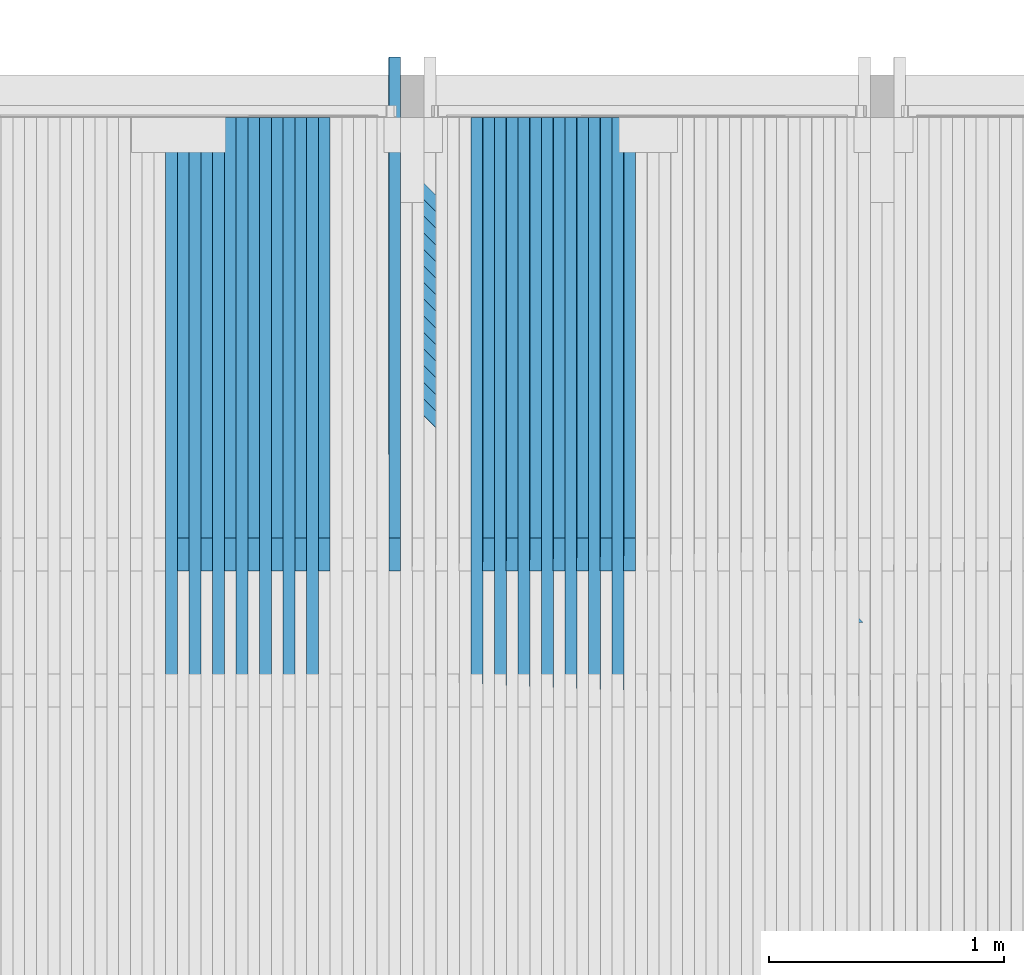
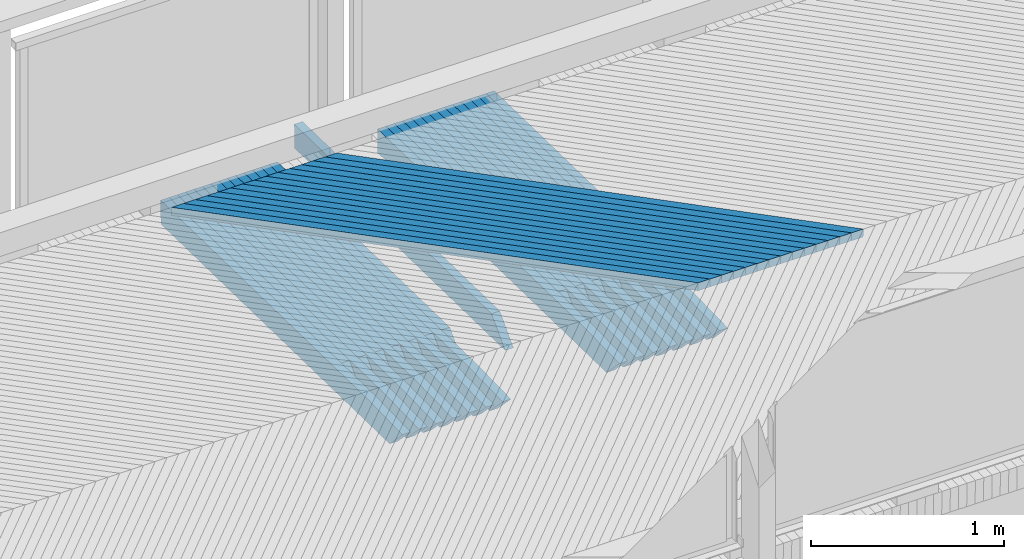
# One storey, part 36 of 65: 43 beams.
"""IFC2X3 building model written with IfcOpenShell, lengths in millimetres."""

from ifc_helpers import new_model, si_unit, frame, origin_with_axes, place, context, subcontext, project, spatial, faceted_brep, material, type_object, element, save


model = new_model("IFC2X3")

# Units and contexts
model_context = context("Model", 3, precision=1e-05, world=origin_with_axes())
body_context = subcontext(model_context, "Body", "Model", "MODEL_VIEW")
ifc_project = project(units=[si_unit("LENGTHUNIT", "METRE", prefix="MILLI"), si_unit("AREAUNIT", "SQUARE_METRE"), si_unit("VOLUMEUNIT", "CUBIC_METRE"), si_unit("MASSUNIT", "GRAM", prefix="KILO"), si_unit("TIMEUNIT", "SECOND"), si_unit("PLANEANGLEUNIT", "RADIAN"), si_unit("SOLIDANGLEUNIT", "STERADIAN"), si_unit("THERMODYNAMICTEMPERATUREUNIT", "DEGREE_CELSIUS"), si_unit("LUMINOUSINTENSITYUNIT", "LUMEN")], contexts=[model_context])

# Site, building, storey
site_placement = place(None, origin_with_axes())
site = spatial("IfcSite", under=ifc_project, at=site_placement, Name="Undefined", CompositionType="ELEMENT")
building_placement = place(site_placement, origin_with_axes())
building = spatial("IfcBuilding", under=site, at=building_placement, Name="Undefined", CompositionType="ELEMENT")
storey_placement = place(building_placement, origin_with_axes())
storey = spatial("IfcBuildingStorey", under=building, at=storey_placement, Name="Undefined", CompositionType="ELEMENT", Elevation=0.0)

# Beams
ifc_material = material(Name="TIMBER/Timber_Undefined")
beam_type_1 = type_object("IfcBeamType", Name="50*50", PredefinedType="NOTDEFINED")
for number, where, z_axis, x_axis, name in (
    (1, (11884.1639920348, 22365.4998996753, 3223.59371167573), (0.707016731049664, 0.706981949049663, -0.0174317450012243), (-0.707181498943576, 0.706948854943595, -0.0108463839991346), "BEAM"),
    (2, (11813.441203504, 22365.4998996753, 3224.04579456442), (0.707018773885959, 0.706981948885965, -0.0173486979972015), (-0.707180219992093, 0.706948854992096, -0.0109294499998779), "BEAM"),
    (3, (11742.718362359, 22365.4998996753, 3224.48957030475), (0.707020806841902, 0.706981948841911, -0.0172656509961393), (-0.707178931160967, 0.706948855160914, -0.0110125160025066), "BEAM"),
    (4, (11671.9954695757, 22365.4998996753, 3224.92503889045), (0.707022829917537, 0.706981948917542, -0.017182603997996), (-0.707177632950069, 0.706948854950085, -0.0110955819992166), "BEAM"),
    (5, (11601.2725261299, 22365.4998996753, 3225.35220031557), (0.707024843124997, 0.706981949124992, -0.0170995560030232), (-0.707176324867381, 0.706948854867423, -0.0111786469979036), "BEAM"),
    (6, (11530.5495329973, 22365.4998996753, 3225.7710545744), (0.707026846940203, 0.706981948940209, -0.0170165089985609), (-0.707175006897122, 0.706948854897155, -0.0112617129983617), "BEAM"),
    (7, (11459.8264911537, 22365.4998996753, 3226.18160166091), (0.7070288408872, 0.706981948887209, -0.0169334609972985), (-0.707173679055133, 0.706948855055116, -0.0113447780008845), "BEAM"),
    (8, (11389.1034015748, 22365.4998996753, 3226.58384156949), (0.70703082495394, 0.706981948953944, -0.0168504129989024), (-0.70717234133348, 0.706948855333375, -0.011427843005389), "BEAM"),
    (9, (11318.3802652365, 22365.4998996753, 3226.97777429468), (0.707032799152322, 0.706981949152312, -0.0167673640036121), (-0.707170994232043, 0.70694885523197, -0.011510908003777), "BEAM"),
    (10, (11247.6570831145, 22365.4998996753, 3227.363399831), (0.707034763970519, 0.706981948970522, -0.0166843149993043), (-0.707169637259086, 0.706948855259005, -0.0115939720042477), "BEAM"),
    (11, (11176.9338561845, 22365.4998996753, 3227.7407181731), (0.707036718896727, 0.706981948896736, -0.0166012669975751), (-0.707168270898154, 0.706948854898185, -0.0116770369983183), "BEAM"),
    (12, (11106.2105854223, 22365.4998996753, 3228.10972931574), (0.707038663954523, 0.706981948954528, -0.0165182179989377), (-0.707166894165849, 0.706948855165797, -0.011760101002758), "BEAM"),
    (13, (11035.4872718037, 22365.4998996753, 3228.47043325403), (0.707040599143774, 0.706981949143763, -0.016435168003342), (-0.707165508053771, 0.706948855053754, -0.0118431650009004), "BEAM"),
    (14, (10964.7639163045, 22365.4998996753, 3228.82282998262), (0.707042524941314, 0.706981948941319, -0.0163521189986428), (-0.707164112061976, 0.706948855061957, -0.0119262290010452), "BEAM"),
):
    element("IfcBeam", number, at=place(storey_placement, frame(where, z_axis=z_axis, x_axis=x_axis)), inside=storey, type_object=beam_type_1, material=ifc_material, Name=name, ObjectType="50*50", context=body_context, shape_type="Brep", body=[
        faceted_brep([(23.5869248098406, 24.9999999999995, -24.9999999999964), (-26.4154158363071, 24.9999999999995, 24.9999999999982), (2802.92643296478, 25.0, 25.0), (2852.92877373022, 25.0000000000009, -25.0), (-25.0011704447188, -25.0, 24.9999999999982), (2804.34067830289, -25.0, 25.0000000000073), (25.0011701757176, -25.0000000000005, -24.9999999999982), (2854.34301907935, -24.9999999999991, -25.0000000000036)], [[[0, 1, 2, 3]], [[1, 4, 5, 2]], [[4, 6, 7, 5]], [[6, 0, 3, 7]], [[5, 7, 3, 2]], [[6, 4, 1, 0]]]),
    ])
beam_type_2 = type_object("IfcBeamType", Name="150*50", PredefinedType="NOTDEFINED")
beam_1_placement = place(storey_placement, frame((10875.1411031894, 24513.4953923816, 3086.28180497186), z_axis=(0.00469590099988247, 0.0199960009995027, 0.99978903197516), x_axis=(9.39180000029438e-05, -0.999800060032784, 0.0199957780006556)))
element("IfcBeam", 15, at=beam_1_placement, inside=storey, type_object=beam_type_2, material=ifc_material, Name="BEAM", ObjectType="150*50", context=body_context, shape_type="Brep", body=[
    faceted_brep([(-1.6778358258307e-07, -24.9999999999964, -74.9999999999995), (-1.6778358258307e-07, 25.0000000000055, -75.0), (2375.00494422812, 25.0000000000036, -75.0), (2375.00494447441, -24.9999999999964, -74.9999999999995), (1.67790858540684e-07, -24.9999999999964, 75.0000000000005), (1.67790858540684e-07, 25.0000000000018, 74.9999999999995), (2150.42515052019, 25.0000000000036, 74.9999999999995), (2510.59248715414, 25.0000000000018, 60.5875433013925), (2510.59248714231, -24.9999999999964, 60.5875430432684), (2150.42514405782, -24.9999999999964, 75.0000000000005)], [[[0, 1, 2, 3]], [[0, 4, 5, 1]], [[2, 1, 5, 6, 7]], [[3, 2, 7, 8]], [[4, 0, 3, 8, 9]], [[5, 4, 9, 6]], [[8, 7, 6, 9]]]),
])
beam_2_placement = place(storey_placement, frame((10925.1605446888, 24513.4953923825, 3086.03855962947), z_axis=(0.00486202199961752, 0.0199960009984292, 0.999788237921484), x_axis=(9.72400000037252e-05, -0.999800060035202, 0.019995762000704)))
element("IfcBeam", 16, at=beam_2_placement, inside=storey, type_object=beam_type_2, material=ifc_material, Name="BEAM", ObjectType="150*50", context=body_context, shape_type="Brep", body=[
    faceted_brep([(-1.6778358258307e-07, -24.9999999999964, -74.9999999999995), (1.67790858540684e-07, -24.9999999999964, 75.0000000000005), (1.67790858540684e-07, 25.0000000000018, 74.9999999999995), (-1.6778358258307e-07, 25.0000000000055, -75.0), (1789.96936408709, 24.9999999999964, 75.0), (1928.42646328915, 24.9999999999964, -75.0), (1928.42646353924, -25.0, -75.0000000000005), (1789.96936433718, -25.0000000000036, 74.9999999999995)], [[[0, 1, 2, 3]], [[3, 2, 4, 5]], [[0, 3, 5, 6]], [[1, 0, 6, 7]], [[2, 1, 7, 4]], [[5, 4, 7, 6]]]),
])
beam_3_placement = place(storey_placement, frame((10775.1221713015, 24513.4953923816, 3086.75121569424), z_axis=(0.00452978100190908, 0.01999600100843, 0.999789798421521), x_axis=(9.05950000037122e-05, -0.999800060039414, 0.0199957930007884)))
element("IfcBeam", 17, at=beam_3_placement, inside=storey, type_object=beam_type_2, material=ifc_material, Name="BEAM", ObjectType="150*50", context=body_context, shape_type="Brep", body=[
    faceted_brep([(-1.6778358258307e-07, -24.9999999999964, -74.9999999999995), (-1.6778358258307e-07, 25.0000000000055, -75.0), (2375.00494422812, 25.0000000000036, -75.0), (2375.00494447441, -24.9999999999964, -74.9999999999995), (1.67790858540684e-07, -24.9999999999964, 75.0000000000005), (1.67790858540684e-07, 25.0000000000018, 74.9999999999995), (2150.42515052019, 25.0000000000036, 74.9999999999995), (2510.59248715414, 25.0000000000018, 60.5875433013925), (2510.59248714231, -24.9999999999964, 60.5875430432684), (2150.42514405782, -24.9999999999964, 75.0000000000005)], [[[0, 1, 2, 3]], [[0, 4, 5, 1]], [[2, 1, 5, 6, 7]], [[3, 2, 7, 8]], [[4, 0, 3, 8, 9]], [[5, 4, 9, 6]], [[8, 7, 6, 9]]]),
])
beam_4_placement = place(storey_placement, frame((10825.141652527, 24513.4953923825, 3086.51628135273), z_axis=(0.00469590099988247, 0.0199960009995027, 0.99978903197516), x_axis=(9.39180000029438e-05, -0.999800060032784, 0.0199957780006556)))
element("IfcBeam", 18, at=beam_4_placement, inside=storey, type_object=beam_type_2, material=ifc_material, Name="BEAM", ObjectType="150*50", context=body_context, shape_type="Brep", body=[
    faceted_brep([(-1.6778358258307e-07, -24.9999999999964, -74.9999999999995), (1.67790858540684e-07, -24.9999999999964, 75.0000000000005), (1.67790858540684e-07, 25.0000000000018, 74.9999999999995), (-1.6778358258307e-07, 25.0000000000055, -75.0), (1789.96936408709, 24.9999999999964, 75.0), (1928.42646328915, 24.9999999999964, -75.0), (1928.42646353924, -25.0, -75.0000000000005), (1789.96936433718, -25.0000000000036, 74.9999999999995)], [[[0, 1, 2, 3]], [[3, 2, 4, 5]], [[0, 3, 5, 6]], [[1, 0, 6, 7]], [[2, 1, 7, 4]], [[5, 4, 7, 6]]]),
])
beam_5_placement = place(storey_placement, frame((10675.1031627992, 24513.4953923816, 3087.20400773), z_axis=(0.00436366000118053, 0.0199960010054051, 0.999790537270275), x_axis=(8.72730000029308e-05, -0.999800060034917, 0.0199958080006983)))
element("IfcBeam", 19, at=beam_5_placement, inside=storey, type_object=beam_type_2, material=ifc_material, Name="BEAM", ObjectType="150*50", context=body_context, shape_type="Brep", body=[
    faceted_brep([(-1.6778358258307e-07, -24.9999999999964, -74.9999999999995), (-1.6778358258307e-07, 25.0000000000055, -75.0), (2375.00494422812, 25.0000000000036, -75.0), (2375.00494447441, -24.9999999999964, -74.9999999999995), (1.67790858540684e-07, -24.9999999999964, 75.0000000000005), (1.67790858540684e-07, 25.0000000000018, 74.9999999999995), (2150.42515052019, 25.0000000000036, 74.9999999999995), (2510.59248715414, 25.0000000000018, 60.5875433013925), (2510.59248714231, -24.9999999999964, 60.5875430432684), (2150.42514405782, -24.9999999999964, 75.0000000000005)], [[[0, 1, 2, 3]], [[0, 4, 5, 1]], [[2, 1, 5, 6, 7]], [[3, 2, 7, 8]], [[4, 0, 3, 8, 9]], [[5, 4, 9, 6]], [[8, 7, 6, 9]]]),
])
beam_6_placement = place(storey_placement, frame((10725.1226823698, 24513.4953923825, 3086.9773843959), z_axis=(0.00452978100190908, 0.01999600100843, 0.999789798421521), x_axis=(9.05950000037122e-05, -0.999800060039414, 0.0199957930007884)))
element("IfcBeam", 20, at=beam_6_placement, inside=storey, type_object=beam_type_2, material=ifc_material, Name="BEAM", ObjectType="150*50", context=body_context, shape_type="Brep", body=[
    faceted_brep([(-1.6778358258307e-07, -24.9999999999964, -74.9999999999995), (1.67790858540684e-07, -24.9999999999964, 75.0000000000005), (1.67790858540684e-07, 25.0000000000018, 74.9999999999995), (-1.6778358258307e-07, 25.0000000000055, -75.0), (1789.96936408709, 24.9999999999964, 75.0), (1928.42646328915, 24.9999999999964, -75.0), (1928.42646353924, -25.0, -75.0000000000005), (1789.96936433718, -25.0000000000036, 74.9999999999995)], [[[0, 1, 2, 3]], [[3, 2, 4, 5]], [[0, 3, 5, 6]], [[1, 0, 6, 7]], [[2, 1, 7, 4]], [[5, 4, 7, 6]]]),
])
beam_7_placement = place(storey_placement, frame((10575.0840804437, 24513.4953923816, 3087.64018106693), z_axis=(0.00419753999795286, 0.0199960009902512, 0.99979124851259), x_axis=(8.39510000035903e-05, -0.999800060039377, 0.0199958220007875)))
element("IfcBeam", 21, at=beam_7_placement, inside=storey, type_object=beam_type_2, material=ifc_material, Name="BEAM", ObjectType="150*50", context=body_context, shape_type="Brep", body=[
    faceted_brep([(-1.6778358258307e-07, -24.9999999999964, -74.9999999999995), (-1.6778358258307e-07, 25.0000000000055, -75.0), (2375.00494422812, 25.0000000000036, -75.0), (2375.00494447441, -24.9999999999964, -74.9999999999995), (1.67790858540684e-07, -24.9999999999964, 75.0000000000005), (1.67790858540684e-07, 25.0000000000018, 74.9999999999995), (2150.42515052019, 25.0000000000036, 74.9999999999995), (2510.59248715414, 25.0000000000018, 60.5875433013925), (2510.59248714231, -24.9999999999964, 60.5875430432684), (2150.42514405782, -24.9999999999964, 75.0000000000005)], [[[0, 1, 2, 3]], [[0, 4, 5, 1]], [[2, 1, 5, 6, 7]], [[3, 2, 7, 8]], [[4, 0, 3, 8, 9]], [[5, 4, 9, 6]], [[8, 7, 6, 9]]]),
])
beam_8_placement = place(storey_placement, frame((10625.1036369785, 24513.4953923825, 3087.4218687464), z_axis=(0.00436366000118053, 0.0199960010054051, 0.999790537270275), x_axis=(8.72730000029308e-05, -0.999800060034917, 0.0199958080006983)))
element("IfcBeam", 22, at=beam_8_placement, inside=storey, type_object=beam_type_2, material=ifc_material, Name="BEAM", ObjectType="150*50", context=body_context, shape_type="Brep", body=[
    faceted_brep([(-1.6778358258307e-07, -24.9999999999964, -74.9999999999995), (1.67790858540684e-07, -24.9999999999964, 75.0000000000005), (1.67790858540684e-07, 25.0000000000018, 74.9999999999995), (-1.6778358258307e-07, 25.0000000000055, -75.0), (1789.96936408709, 24.9999999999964, 75.0), (1928.42646328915, 24.9999999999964, -75.0), (1928.42646353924, -25.0, -75.0000000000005), (1789.96936433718, -25.0000000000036, 74.9999999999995)], [[[0, 1, 2, 3]], [[3, 2, 4, 5]], [[0, 3, 5, 6]], [[1, 0, 6, 7]], [[2, 1, 7, 4]], [[5, 4, 7, 6]]]),
])
beam_9_placement = place(storey_placement, frame((10475.0649269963, 24513.4953923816, 3088.05973569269), z_axis=(0.00403141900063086, 0.0199960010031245, 0.999791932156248), x_axis=(8.06280000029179e-05, -0.999800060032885, 0.0199958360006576)))
element("IfcBeam", 23, at=beam_9_placement, inside=storey, type_object=beam_type_2, material=ifc_material, Name="BEAM", ObjectType="150*50", context=body_context, shape_type="Brep", body=[
    faceted_brep([(-1.6778358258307e-07, -24.9999999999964, -74.9999999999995), (-1.6778358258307e-07, 25.0000000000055, -75.0), (2375.00494422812, 25.0000000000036, -75.0), (2375.00494447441, -24.9999999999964, -74.9999999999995), (1.67790858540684e-07, -24.9999999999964, 75.0000000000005), (1.67790858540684e-07, 25.0000000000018, 74.9999999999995), (2150.42515052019, 25.0000000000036, 74.9999999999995), (2510.59248715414, 25.0000000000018, 60.5875433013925), (2510.59248714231, -24.9999999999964, 60.5875430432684), (2150.42514405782, -24.9999999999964, 75.0000000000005)], [[[0, 1, 2, 3]], [[0, 4, 5, 1]], [[2, 1, 5, 6, 7]], [[3, 2, 7, 8]], [[4, 0, 3, 8, 9]], [[5, 4, 9, 6]], [[8, 7, 6, 9]]]),
])
beam_10_placement = place(storey_placement, frame((10525.0845191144, 24513.4953923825, 3087.84973439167), z_axis=(0.00419753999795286, 0.0199960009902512, 0.99979124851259), x_axis=(8.39510000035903e-05, -0.999800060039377, 0.0199958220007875)))
element("IfcBeam", 24, at=beam_10_placement, inside=storey, type_object=beam_type_2, material=ifc_material, Name="BEAM", ObjectType="150*50", context=body_context, shape_type="Brep", body=[
    faceted_brep([(-1.6778358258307e-07, -24.9999999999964, -74.9999999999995), (1.67790858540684e-07, -24.9999999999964, 75.0000000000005), (1.67790858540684e-07, 25.0000000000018, 74.9999999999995), (-1.6778358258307e-07, 25.0000000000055, -75.0), (1789.96936408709, 24.9999999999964, 75.0), (1928.42646328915, 24.9999999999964, -75.0), (1928.42646353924, -25.0, -75.0000000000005), (1789.96936433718, -25.0000000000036, 74.9999999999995)], [[[0, 1, 2, 3]], [[3, 2, 4, 5]], [[0, 3, 5, 6]], [[1, 0, 6, 7]], [[2, 1, 7, 4]], [[5, 4, 7, 6]]]),
])
beam_11_placement = place(storey_placement, frame((10375.0457052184, 24513.4953923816, 3088.46267159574), z_axis=(0.00386529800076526, 0.0199960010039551, 0.99979258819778), x_axis=(7.73060000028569e-05, -0.999800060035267, 0.0199958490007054)))
element("IfcBeam", 25, at=beam_11_placement, inside=storey, type_object=beam_type_2, material=ifc_material, Name="BEAM", ObjectType="150*50", context=body_context, shape_type="Brep", body=[
    faceted_brep([(-1.6778358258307e-07, -24.9999999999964, -74.9999999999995), (-1.6778358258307e-07, 25.0000000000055, -75.0), (2375.00494422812, 25.0000000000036, -75.0), (2375.00494447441, -24.9999999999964, -74.9999999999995), (1.67790858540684e-07, -24.9999999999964, 75.0000000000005), (1.67790858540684e-07, 25.0000000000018, 74.9999999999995), (2150.42515052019, 25.0000000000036, 74.9999999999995), (2510.59248715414, 25.0000000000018, 60.5875433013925), (2510.59248714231, -24.9999999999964, 60.5875430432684), (2150.42514405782, -24.9999999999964, 75.0000000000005)], [[[0, 1, 2, 3]], [[0, 4, 5, 1]], [[2, 1, 5, 6, 7]], [[3, 2, 7, 8]], [[4, 0, 3, 8, 9]], [[5, 4, 9, 6]], [[8, 7, 6, 9]]]),
])
beam_12_placement = place(storey_placement, frame((10425.0653315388, 24513.4953923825, 3088.26098132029), z_axis=(0.00403141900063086, 0.0199960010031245, 0.999791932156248), x_axis=(8.06280000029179e-05, -0.999800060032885, 0.0199958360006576)))
element("IfcBeam", 26, at=beam_12_placement, inside=storey, type_object=beam_type_2, material=ifc_material, Name="BEAM", ObjectType="150*50", context=body_context, shape_type="Brep", body=[
    faceted_brep([(-1.6778358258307e-07, -24.9999999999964, -74.9999999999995), (1.67790858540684e-07, -24.9999999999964, 75.0000000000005), (1.67790858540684e-07, 25.0000000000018, 74.9999999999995), (-1.6778358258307e-07, 25.0000000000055, -75.0), (1789.96936408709, 24.9999999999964, 75.0), (1928.42646328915, 24.9999999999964, -75.0), (1928.42646353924, -25.0, -75.0000000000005), (1789.96936433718, -25.0000000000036, 74.9999999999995)], [[[0, 1, 2, 3]], [[3, 2, 4, 5]], [[0, 3, 5, 6]], [[1, 0, 6, 7]], [[2, 1, 7, 4]], [[5, 4, 7, 6]]]),
])
beam_13_placement = place(storey_placement, frame((10275.0264178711, 24513.4953923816, 3088.84898876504), z_axis=(0.00369917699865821, 0.0199960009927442, 0.999793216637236), x_axis=(7.39830000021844e-05, -0.999800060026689, 0.0199958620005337)))
element("IfcBeam", 27, at=beam_13_placement, inside=storey, type_object=beam_type_2, material=ifc_material, Name="BEAM", ObjectType="150*50", context=body_context, shape_type="Brep", body=[
    faceted_brep([(-1.6778358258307e-07, -24.9999999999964, -74.9999999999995), (-1.6778358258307e-07, 25.0000000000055, -75.0), (2375.00494422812, 25.0000000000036, -75.0), (2375.00494447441, -24.9999999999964, -74.9999999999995), (1.67790858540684e-07, -24.9999999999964, 75.0000000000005), (1.67790858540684e-07, 25.0000000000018, 74.9999999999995), (2150.42515052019, 25.0000000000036, 74.9999999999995), (2510.59248715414, 25.0000000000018, 60.5875433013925), (2510.59248714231, -24.9999999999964, 60.5875430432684), (2150.42514405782, -24.9999999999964, 75.0000000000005)], [[[0, 1, 2, 3]], [[0, 4, 5, 1]], [[2, 1, 5, 6, 7]], [[3, 2, 7, 8]], [[4, 0, 3, 8, 9]], [[5, 4, 9, 6]], [[8, 7, 6, 9]]]),
])
beam_14_placement = place(storey_placement, frame((10325.046077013, 24513.4953923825, 3088.65560952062), z_axis=(0.00386529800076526, 0.0199960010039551, 0.99979258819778), x_axis=(7.73060000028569e-05, -0.999800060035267, 0.0199958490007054)))
element("IfcBeam", 28, at=beam_14_placement, inside=storey, type_object=beam_type_2, material=ifc_material, Name="BEAM", ObjectType="150*50", context=body_context, shape_type="Brep", body=[
    faceted_brep([(-1.6778358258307e-07, -24.9999999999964, -74.9999999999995), (1.67790858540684e-07, -24.9999999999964, 75.0000000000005), (1.67790858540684e-07, 25.0000000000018, 74.9999999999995), (-1.6778358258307e-07, 25.0000000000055, -75.0), (1789.96936408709, 24.9999999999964, 75.0), (1928.42646328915, 24.9999999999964, -75.0), (1928.42646353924, -25.0, -75.0000000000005), (1789.96936433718, -25.0000000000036, 74.9999999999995)], [[[0, 1, 2, 3]], [[3, 2, 4, 5]], [[0, 3, 5, 6]], [[1, 0, 6, 7]], [[2, 1, 7, 4]], [[5, 4, 7, 6]]]),
])
beam_15_placement = place(storey_placement, frame((9575.48980231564, 24513.4953923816, 3091.08828233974), z_axis=(0.0025363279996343, 0.0199960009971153, 0.999796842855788), x_axis=(5.07260000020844e-05, -0.999800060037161, 0.0199959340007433)))
element("IfcBeam", 29, at=beam_15_placement, inside=storey, type_object=beam_type_2, material=ifc_material, Name="BEAM", ObjectType="150*50", context=body_context, shape_type="Brep", body=[
    faceted_brep([(-1.6778358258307e-07, -24.9999999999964, -74.9999999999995), (-1.6778358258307e-07, 25.0000000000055, -75.0), (2375.00494422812, 25.0000000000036, -75.0), (2375.00494447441, -24.9999999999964, -74.9999999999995), (1.67790858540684e-07, -24.9999999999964, 75.0000000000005), (1.67790858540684e-07, 25.0000000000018, 74.9999999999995), (2150.42515052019, 25.0000000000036, 74.9999999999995), (2510.59248715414, 25.0000000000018, 60.5875433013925), (2510.59248714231, -24.9999999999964, 60.5875430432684), (2150.42514405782, -24.9999999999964, 75.0000000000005)], [[[0, 1, 2, 3]], [[0, 4, 5, 1]], [[2, 1, 5, 6, 7]], [[3, 2, 7, 8]], [[4, 0, 3, 8, 9]], [[5, 4, 9, 6]], [[8, 7, 6, 9]]]),
])
beam_16_placement = place(storey_placement, frame((9625.5096525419, 24513.4953923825, 3090.9530804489), z_axis=(0.00270244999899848, 0.019996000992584, 0.999796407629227), x_axis=(5.40480000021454e-05, -0.999800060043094, 0.0199959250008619)))
element("IfcBeam", 30, at=beam_16_placement, inside=storey, type_object=beam_type_2, material=ifc_material, Name="BEAM", ObjectType="150*50", context=body_context, shape_type="Brep", body=[
    faceted_brep([(-1.6778358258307e-07, -24.9999999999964, -74.9999999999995), (1.67790858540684e-07, -24.9999999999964, 75.0000000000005), (1.67790858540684e-07, 25.0000000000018, 74.9999999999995), (-1.6778358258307e-07, 25.0000000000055, -75.0), (1789.96936408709, 24.9999999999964, 75.0), (1928.42646328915, 24.9999999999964, -75.0), (1928.42646353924, -25.0, -75.0000000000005), (1789.96936433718, -25.0000000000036, 74.9999999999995)], [[[0, 1, 2, 3]], [[3, 2, 4, 5]], [[0, 3, 5, 6]], [[1, 0, 6, 7]], [[2, 1, 7, 4]], [[5, 4, 7, 6]]]),
])
beam_17_placement = place(storey_placement, frame((9475.470089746, 24513.4953923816, 3091.34174898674), z_axis=(0.00237020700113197, 0.0199960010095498, 0.999797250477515), x_axis=(4.74040000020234e-05, -0.999800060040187, 0.0199959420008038)))
element("IfcBeam", 31, at=beam_17_placement, inside=storey, type_object=beam_type_2, material=ifc_material, Name="BEAM", ObjectType="150*50", context=body_context, shape_type="Brep", body=[
    faceted_brep([(-1.6778358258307e-07, -24.9999999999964, -74.9999999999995), (-1.6778358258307e-07, 25.0000000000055, -75.0), (2375.00494422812, 25.0000000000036, -75.0), (2375.00494447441, -24.9999999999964, -74.9999999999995), (1.67790858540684e-07, -24.9999999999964, 75.0000000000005), (1.67790858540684e-07, 25.0000000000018, 74.9999999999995), (2150.42515052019, 25.0000000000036, 74.9999999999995), (2510.59248715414, 25.0000000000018, 60.5875433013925), (2510.59248714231, -24.9999999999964, 60.5875430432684), (2150.42514405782, -24.9999999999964, 75.0000000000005)], [[[0, 1, 2, 3]], [[0, 4, 5, 1]], [[2, 1, 5, 6, 7]], [[3, 2, 7, 8]], [[4, 0, 3, 8, 9]], [[5, 4, 9, 6]], [[8, 7, 6, 9]]]),
])
beam_18_placement = place(storey_placement, frame((9525.48996174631, 24513.4953923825, 3091.21485816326), z_axis=(0.0025363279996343, 0.0199960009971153, 0.999796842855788), x_axis=(5.07260000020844e-05, -0.999800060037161, 0.0199959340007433)))
element("IfcBeam", 32, at=beam_18_placement, inside=storey, type_object=beam_type_2, material=ifc_material, Name="BEAM", ObjectType="150*50", context=body_context, shape_type="Brep", body=[
    faceted_brep([(-1.6778358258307e-07, -24.9999999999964, -74.9999999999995), (1.67790858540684e-07, -24.9999999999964, 75.0000000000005), (1.67790858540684e-07, 25.0000000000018, 74.9999999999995), (-1.6778358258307e-07, 25.0000000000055, -75.0), (1789.96936408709, 24.9999999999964, 75.0), (1928.42646328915, 24.9999999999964, -75.0), (1928.42646353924, -25.0, -75.0000000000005), (1789.96936433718, -25.0000000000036, 74.9999999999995)], [[[0, 1, 2, 3]], [[3, 2, 4, 5]], [[0, 3, 5, 6]], [[1, 0, 6, 7]], [[2, 1, 7, 4]], [[5, 4, 7, 6]]]),
])
beam_19_placement = place(storey_placement, frame((9375.45033644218, 24513.4953923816, 3091.57859682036), z_axis=(0.00220408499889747, 0.0199960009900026, 0.999797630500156), x_axis=(4.4081000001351e-05, -0.999800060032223, 0.0199959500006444)))
element("IfcBeam", 33, at=beam_19_placement, inside=storey, type_object=beam_type_2, material=ifc_material, Name="BEAM", ObjectType="150*50", context=body_context, shape_type="Brep", body=[
    faceted_brep([(-1.6778358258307e-07, -24.9999999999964, -74.9999999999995), (-1.6778358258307e-07, 25.0000000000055, -75.0), (2375.00494422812, 25.0000000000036, -75.0), (2375.00494447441, -24.9999999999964, -74.9999999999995), (1.67790858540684e-07, -24.9999999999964, 75.0000000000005), (1.67790858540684e-07, 25.0000000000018, 74.9999999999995), (2150.42515052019, 25.0000000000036, 74.9999999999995), (2510.59248715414, 25.0000000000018, 60.5875433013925), (2510.59248714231, -24.9999999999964, 60.5875430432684), (2150.42514405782, -24.9999999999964, 75.0000000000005)], [[[0, 1, 2, 3]], [[0, 4, 5, 1]], [[2, 1, 5, 6, 7]], [[3, 2, 7, 8]], [[4, 0, 3, 8, 9]], [[5, 4, 9, 6]], [[8, 7, 6, 9]]]),
])
beam_20_placement = place(storey_placement, frame((9425.47022883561, 24513.4953923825, 3091.46001706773), z_axis=(0.00237020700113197, 0.0199960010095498, 0.999797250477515), x_axis=(4.74040000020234e-05, -0.999800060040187, 0.0199959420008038)))
element("IfcBeam", 34, at=beam_20_placement, inside=storey, type_object=beam_type_2, material=ifc_material, Name="BEAM", ObjectType="150*50", context=body_context, shape_type="Brep", body=[
    faceted_brep([(-1.6778358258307e-07, -24.9999999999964, -74.9999999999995), (1.67790858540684e-07, -24.9999999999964, 75.0000000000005), (1.67790858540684e-07, 25.0000000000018, 74.9999999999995), (-1.6778358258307e-07, 25.0000000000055, -75.0), (1789.96936408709, 24.9999999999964, 75.0), (1928.42646328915, 24.9999999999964, -75.0), (1928.42646353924, -25.0, -75.0000000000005), (1789.96936433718, -25.0000000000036, 74.9999999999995)], [[[0, 1, 2, 3]], [[3, 2, 4, 5]], [[0, 3, 5, 6]], [[1, 0, 6, 7]], [[2, 1, 7, 4]], [[5, 4, 7, 6]]]),
])
beam_21_placement = place(storey_placement, frame((9275.43054516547, 24513.4953923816, 3091.79882583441), z_axis=(0.00203796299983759, 0.0199960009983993, 0.999797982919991), x_axis=(4.07590000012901e-05, -0.999800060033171, 0.0199959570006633)))
element("IfcBeam", 35, at=beam_21_placement, inside=storey, type_object=beam_type_2, material=ifc_material, Name="BEAM", ObjectType="150*50", context=body_context, shape_type="Brep", body=[
    faceted_brep([(-1.6778358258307e-07, -24.9999999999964, -74.9999999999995), (-1.6778358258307e-07, 25.0000000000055, -75.0), (2375.00494422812, 25.0000000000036, -75.0), (2375.00494447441, -24.9999999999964, -74.9999999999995), (1.67790858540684e-07, -24.9999999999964, 75.0000000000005), (1.67790858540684e-07, 25.0000000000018, 74.9999999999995), (2150.42515052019, 25.0000000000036, 74.9999999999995), (2510.59248715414, 25.0000000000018, 60.5875433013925), (2510.59248714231, -24.9999999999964, 60.5875430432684), (2150.42514405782, -24.9999999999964, 75.0000000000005)], [[[0, 1, 2, 3]], [[0, 4, 5, 1]], [[2, 1, 5, 6, 7]], [[3, 2, 7, 8]], [[4, 0, 3, 8, 9]], [[5, 4, 9, 6]], [[8, 7, 6, 9]]]),
])
beam_22_placement = place(storey_placement, frame((9325.4504565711, 24513.4953923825, 3091.68855715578), z_axis=(0.00220408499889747, 0.0199960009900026, 0.999797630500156), x_axis=(4.4081000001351e-05, -0.999800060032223, 0.0199959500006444)))
element("IfcBeam", 36, at=beam_22_placement, inside=storey, type_object=beam_type_2, material=ifc_material, Name="BEAM", ObjectType="150*50", context=body_context, shape_type="Brep", body=[
    faceted_brep([(-1.6778358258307e-07, -24.9999999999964, -74.9999999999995), (1.67790858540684e-07, -24.9999999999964, 75.0000000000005), (1.67790858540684e-07, 25.0000000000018, 74.9999999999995), (-1.6778358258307e-07, 25.0000000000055, -75.0), (1789.96936408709, 24.9999999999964, 75.0), (1928.42646328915, 24.9999999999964, -75.0), (1928.42646353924, -25.0, -75.0000000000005), (1789.96936433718, -25.0000000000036, 74.9999999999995)], [[[0, 1, 2, 3]], [[3, 2, 4, 5]], [[0, 3, 5, 6]], [[1, 0, 6, 7]], [[2, 1, 7, 4]], [[5, 4, 7, 6]]]),
])
beam_23_placement = place(storey_placement, frame((9175.41071867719, 24513.4953923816, 3092.00243602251), z_axis=(0.00187184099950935, 0.0199960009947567, 0.999798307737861), x_axis=(3.7436000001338e-05, -0.999800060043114, 0.0199959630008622)))
element("IfcBeam", 37, at=beam_23_placement, inside=storey, type_object=beam_type_2, material=ifc_material, Name="BEAM", ObjectType="150*50", context=body_context, shape_type="Brep", body=[
    faceted_brep([(-1.6778358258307e-07, -24.9999999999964, -74.9999999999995), (-1.6778358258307e-07, 25.0000000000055, -75.0), (2375.00494422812, 25.0000000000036, -75.0), (2375.00494447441, -24.9999999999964, -74.9999999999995), (1.67790858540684e-07, -24.9999999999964, 75.0000000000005), (1.67790858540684e-07, 25.0000000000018, 74.9999999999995), (2150.42515052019, 25.0000000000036, 74.9999999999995), (2510.59248715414, 25.0000000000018, 60.5875433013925), (2510.59248714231, -24.9999999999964, 60.5875430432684), (2150.42514405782, -24.9999999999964, 75.0000000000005)], [[[0, 1, 2, 3]], [[0, 4, 5, 1]], [[2, 1, 5, 6, 7]], [[3, 2, 7, 8]], [[4, 0, 3, 8, 9]], [[5, 4, 9, 6]], [[8, 7, 6, 9]]]),
])
beam_24_placement = place(storey_placement, frame((9225.43064771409, 24513.4953923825, 3091.9004784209), z_axis=(0.00203796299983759, 0.0199960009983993, 0.999797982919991), x_axis=(4.07590000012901e-05, -0.999800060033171, 0.0199959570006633)))
element("IfcBeam", 38, at=beam_24_placement, inside=storey, type_object=beam_type_2, material=ifc_material, Name="BEAM", ObjectType="150*50", context=body_context, shape_type="Brep", body=[
    faceted_brep([(-1.6778358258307e-07, -24.9999999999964, -74.9999999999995), (1.67790858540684e-07, -24.9999999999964, 75.0000000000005), (1.67790858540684e-07, 25.0000000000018, 74.9999999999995), (-1.6778358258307e-07, 25.0000000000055, -75.0), (1789.96936408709, 24.9999999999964, 75.0), (1928.42646328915, 24.9999999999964, -75.0), (1928.42646353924, -25.0, -75.0000000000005), (1789.96936433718, -25.0000000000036, 74.9999999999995)], [[[0, 1, 2, 3]], [[3, 2, 4, 5]], [[0, 3, 5, 6]], [[1, 0, 6, 7]], [[2, 1, 7, 4]], [[5, 4, 7, 6]]]),
])
beam_25_placement = place(storey_placement, frame((9075.39085973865, 24513.4953923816, 3092.18942737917), z_axis=(0.00170571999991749, 0.0199960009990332, 0.999798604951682), x_axis=(3.41140000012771e-05, -0.999800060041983, 0.0199959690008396)))
element("IfcBeam", 39, at=beam_25_placement, inside=storey, type_object=beam_type_2, material=ifc_material, Name="BEAM", ObjectType="150*50", context=body_context, shape_type="Brep", body=[
    faceted_brep([(-1.6778358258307e-07, -24.9999999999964, -74.9999999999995), (-1.6778358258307e-07, 25.0000000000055, -75.0), (2375.00494422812, 25.0000000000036, -75.0), (2375.00494447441, -24.9999999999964, -74.9999999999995), (1.67790858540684e-07, -24.9999999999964, 75.0000000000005), (1.67790858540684e-07, 25.0000000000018, 74.9999999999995), (2150.42515052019, 25.0000000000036, 74.9999999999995), (2510.59248715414, 25.0000000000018, 60.5875433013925), (2510.59248714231, -24.9999999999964, 60.5875430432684), (2150.42514405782, -24.9999999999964, 75.0000000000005)], [[[0, 1, 2, 3]], [[0, 4, 5, 1]], [[2, 1, 5, 6, 7]], [[3, 2, 7, 8]], [[4, 0, 3, 8, 9]], [[5, 4, 9, 6]], [[8, 7, 6, 9]]]),
])
beam_26_placement = place(storey_placement, frame((9125.41080502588, 24513.4953923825, 3092.09578085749), z_axis=(0.00187184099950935, 0.0199960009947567, 0.999798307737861), x_axis=(3.7436000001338e-05, -0.999800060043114, 0.0199959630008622)))
element("IfcBeam", 40, at=beam_26_placement, inside=storey, type_object=beam_type_2, material=ifc_material, Name="BEAM", ObjectType="150*50", context=body_context, shape_type="Brep", body=[
    faceted_brep([(-1.6778358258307e-07, -24.9999999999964, -74.9999999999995), (1.67790858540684e-07, -24.9999999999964, 75.0000000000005), (1.67790858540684e-07, 25.0000000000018, 74.9999999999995), (-1.6778358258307e-07, 25.0000000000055, -75.0), (1789.96936408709, 24.9999999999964, 75.0), (1928.42646328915, 24.9999999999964, -75.0), (1928.42646353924, -25.0, -75.0000000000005), (1789.96936433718, -25.0000000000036, 74.9999999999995)], [[[0, 1, 2, 3]], [[3, 2, 4, 5]], [[0, 3, 5, 6]], [[1, 0, 6, 7]], [[2, 1, 7, 4]], [[5, 4, 7, 6]]]),
])
beam_27_placement = place(storey_placement, frame((8975.37097111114, 24513.4953923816, 3092.35979989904), z_axis=(0.00153959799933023, 0.0199960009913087, 0.999798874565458), x_axis=(3.0791000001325e-05, -0.999800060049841, 0.0199959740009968)))
element("IfcBeam", 41, at=beam_27_placement, inside=storey, type_object=beam_type_2, material=ifc_material, Name="BEAM", ObjectType="150*50", context=body_context, shape_type="Brep", body=[
    faceted_brep([(-1.6778358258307e-07, -24.9999999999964, -74.9999999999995), (-1.6778358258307e-07, 25.0000000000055, -75.0), (2375.00494422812, 25.0000000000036, -75.0), (2375.00494447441, -24.9999999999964, -74.9999999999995), (1.67790858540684e-07, -24.9999999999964, 75.0000000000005), (1.67790858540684e-07, 25.0000000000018, 74.9999999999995), (2150.42515052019, 25.0000000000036, 74.9999999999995), (2510.59248715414, 25.0000000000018, 60.5875433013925), (2510.59248714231, -24.9999999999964, 60.5875430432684), (2150.42514405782, -24.9999999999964, 75.0000000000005)], [[[0, 1, 2, 3]], [[0, 4, 5, 1]], [[2, 1, 5, 6, 7]], [[3, 2, 7, 8]], [[4, 0, 3, 8, 9]], [[5, 4, 9, 6]], [[8, 7, 6, 9]]]),
])
beam_28_placement = place(storey_placement, frame((9025.39093126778, 24513.4953923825, 3092.27446445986), z_axis=(0.00170571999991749, 0.0199960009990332, 0.999798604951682), x_axis=(3.41140000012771e-05, -0.999800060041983, 0.0199959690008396)))
element("IfcBeam", 42, at=beam_28_placement, inside=storey, type_object=beam_type_2, material=ifc_material, Name="BEAM", ObjectType="150*50", context=body_context, shape_type="Brep", body=[
    faceted_brep([(-1.6778358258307e-07, -24.9999999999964, -74.9999999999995), (1.67790858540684e-07, -24.9999999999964, 75.0000000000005), (1.67790858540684e-07, 25.0000000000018, 74.9999999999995), (-1.6778358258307e-07, 25.0000000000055, -75.0), (1789.96936408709, 24.9999999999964, 75.0), (1928.42646328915, 24.9999999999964, -75.0), (1928.42646353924, -25.0, -75.0000000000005), (1789.96936433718, -25.0000000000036, 74.9999999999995)], [[[0, 1, 2, 3]], [[3, 2, 4, 5]], [[0, 3, 5, 6]], [[1, 0, 6, 7]], [[2, 1, 7, 4]], [[5, 4, 7, 6]]]),
])
beam_29_placement = place(storey_placement, frame((9925.02575940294, 24771.443807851, 3084.90904920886), z_axis=(0.00320081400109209, 0.0199960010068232, 0.999794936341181), x_axis=(6.40160000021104e-05, -0.999800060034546, 0.0199958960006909)))
element("IfcBeam", 43, at=beam_29_placement, inside=storey, type_object=beam_type_2, material=ifc_material, Name="BEAM", ObjectType="150*50", context=body_context, shape_type="Brep", body=[
    faceted_brep([(-1.6778358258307e-07, -24.9999999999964, -74.9999999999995), (1.67790858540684e-07, -24.9999999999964, 75.0000000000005), (1.67790858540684e-07, 25.0000000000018, 74.9999999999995), (-1.6778358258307e-07, 25.0000000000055, -75.0), (2047.9693678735, 24.9999999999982, 75.0), (2186.42646676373, 24.9999999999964, -74.9999999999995), (2186.42645144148, -25.0000000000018, -75.0), (2047.96935255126, -25.0000000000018, 75.0000000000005)], [[[0, 1, 2, 3]], [[3, 2, 4, 5]], [[0, 3, 5, 6]], [[1, 0, 6, 7]], [[2, 1, 7, 4]], [[5, 4, 7, 6]]]),
])

save(model, "model.ifc")
